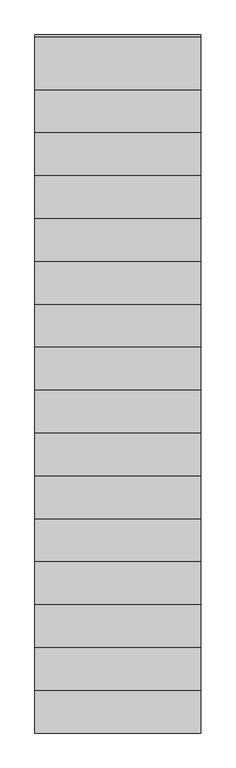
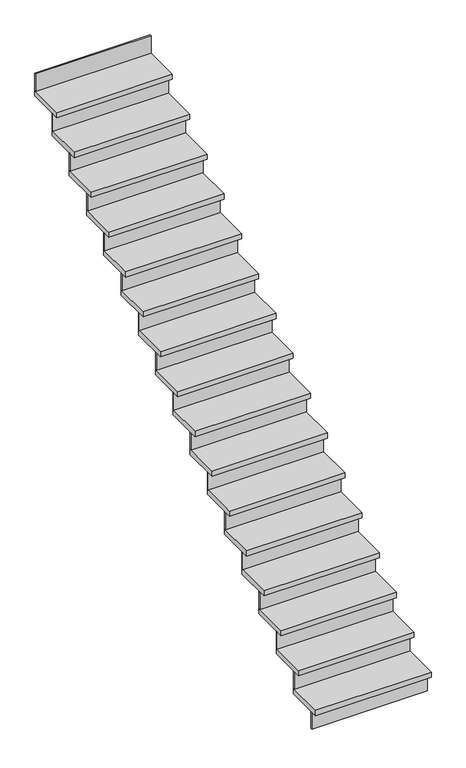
"""IFC4 building model written with IfcOpenShell, lengths in millimetres: stair flight geometry, 24_STR_trede_hout_vuren_40_neus_50_stootbord_10."""

from ifc_helpers import new_model, si_unit, frame, origin, origin_with_axes, place, context, project, spatial, polyline, outline, extrude, source, transform, mapped, element, save


def stair_flight_aef03ee1(model_context):
    return source(origin(), model_context, "Body", "SweptSolid", [
        extrude(outline(polyline([(17349.8089026, -25044.6322236), (18199.8089026, -25044.6322236), (18199.8089026, -25324.6322236), (17349.8089026, -25324.6322236), (17349.8089026, -25044.6322236)])), frame((0.0, 0.0, 136.4705882), z_axis=(0.0, 0.0, 1.0), x_axis=(1.0, 0.0, 0.0)), (0.0, 0.0, 1.0), 40.0),
        extrude(outline(polyline([(18199.8089026, -25264.6322236), (18199.8089026, -25274.6322236), (17349.8089026, -25274.6322236), (17349.8089026, -25264.6322236), (18199.8089026, -25264.6322236)])), origin_with_axes(), (0.0, 0.0, 1.0), 136.4705882),
        extrude(outline(polyline([(17349.8089026, -24824.6322236), (18199.8089026, -24824.6322236), (18199.8089026, -25104.6322236), (17349.8089026, -25104.6322236), (17349.8089026, -24824.6322236)])), frame((0.0, 0.0, 312.9411765), z_axis=(0.0, 0.0, 1.0), x_axis=(1.0, 0.0, 0.0)), (0.0, 0.0, 1.0), 40.0),
        extrude(outline(polyline([(18199.8089026, -25044.6322236), (18199.8089026, -25054.6322236), (17349.8089026, -25054.6322236), (17349.8089026, -25044.6322236), (18199.8089026, -25044.6322236)])), frame((0.0, 0.0, 176.4705882), z_axis=(0.0, 0.0, 1.0), x_axis=(1.0, 0.0, 0.0)), (0.0, 0.0, 1.0), 136.4705882),
        extrude(outline(polyline([(17349.8089026, -24604.6322236), (18199.8089026, -24604.6322236), (18199.8089026, -24884.6322236), (17349.8089026, -24884.6322236), (17349.8089026, -24604.6322236)])), frame((0.0, 0.0, 489.4117647), z_axis=(0.0, 0.0, 1.0), x_axis=(1.0, 0.0, 0.0)), (0.0, 0.0, 1.0), 40.0),
        extrude(outline(polyline([(18199.8089026, -24824.6322236), (18199.8089026, -24834.6322236), (17349.8089026, -24834.6322236), (17349.8089026, -24824.6322236), (18199.8089026, -24824.6322236)])), frame((0.0, 0.0, 352.9411765), z_axis=(0.0, 0.0, 1.0), x_axis=(1.0, 0.0, 0.0)), (0.0, 0.0, 1.0), 136.4705882),
        extrude(outline(polyline([(17349.8089026, -24384.6322236), (18199.8089026, -24384.6322236), (18199.8089026, -24664.6322236), (17349.8089026, -24664.6322236), (17349.8089026, -24384.6322236)])), frame((0.0, 0.0, 665.8823529), z_axis=(0.0, 0.0, 1.0), x_axis=(1.0, 0.0, 0.0)), (0.0, 0.0, 1.0), 40.0),
        extrude(outline(polyline([(18199.8089026, -24604.6322236), (18199.8089026, -24614.6322236), (17349.8089026, -24614.6322236), (17349.8089026, -24604.6322236), (18199.8089026, -24604.6322236)])), frame((0.0, 0.0, 529.4117647), z_axis=(0.0, 0.0, 1.0), x_axis=(1.0, 0.0, 0.0)), (0.0, 0.0, 1.0), 136.4705882),
        extrude(outline(polyline([(17349.8089026, -24164.6322236), (18199.8089026, -24164.6322236), (18199.8089026, -24444.6322236), (17349.8089026, -24444.6322236), (17349.8089026, -24164.6322236)])), frame((0.0, 0.0, 842.3529412), z_axis=(0.0, 0.0, 1.0), x_axis=(1.0, 0.0, 0.0)), (0.0, 0.0, 1.0), 40.0),
        extrude(outline(polyline([(18199.8089026, -24384.6322236), (18199.8089026, -24394.6322236), (17349.8089026, -24394.6322236), (17349.8089026, -24384.6322236), (18199.8089026, -24384.6322236)])), frame((0.0, 0.0, 705.8823529), z_axis=(0.0, 0.0, 1.0), x_axis=(1.0, 0.0, 0.0)), (0.0, 0.0, 1.0), 136.4705882),
        extrude(outline(polyline([(17349.8089026, -23944.6322236), (18199.8089026, -23944.6322236), (18199.8089026, -24224.6322236), (17349.8089026, -24224.6322236), (17349.8089026, -23944.6322236)])), frame((0.0, 0.0, 1018.8235294), z_axis=(0.0, 0.0, 1.0), x_axis=(1.0, 0.0, 0.0)), (0.0, 0.0, 1.0), 40.0),
        extrude(outline(polyline([(18199.8089026, -24164.6322236), (18199.8089026, -24174.6322236), (17349.8089026, -24174.6322236), (17349.8089026, -24164.6322236), (18199.8089026, -24164.6322236)])), frame((0.0, 0.0, 882.3529412), z_axis=(0.0, 0.0, 1.0), x_axis=(1.0, 0.0, 0.0)), (0.0, 0.0, 1.0), 136.4705882),
        extrude(outline(polyline([(17349.8089026, -23724.6322236), (18199.8089026, -23724.6322236), (18199.8089026, -24004.6322236), (17349.8089026, -24004.6322236), (17349.8089026, -23724.6322236)])), frame((0.0, 0.0, 1195.2941176), z_axis=(0.0, 0.0, 1.0), x_axis=(1.0, 0.0, 0.0)), (0.0, 0.0, 1.0), 40.0),
        extrude(outline(polyline([(18199.8089026, -23944.6322236), (18199.8089026, -23954.6322236), (17349.8089026, -23954.6322236), (17349.8089026, -23944.6322236), (18199.8089026, -23944.6322236)])), frame((0.0, 0.0, 1058.8235294), z_axis=(0.0, 0.0, 1.0), x_axis=(1.0, 0.0, 0.0)), (0.0, 0.0, 1.0), 136.4705882),
        extrude(outline(polyline([(17349.8089026, -23504.6322236), (18199.8089026, -23504.6322236), (18199.8089026, -23784.6322236), (17349.8089026, -23784.6322236), (17349.8089026, -23504.6322236)])), frame((0.0, 0.0, 1371.7647059), z_axis=(0.0, 0.0, 1.0), x_axis=(1.0, 0.0, 0.0)), (0.0, 0.0, 1.0), 40.0),
        extrude(outline(polyline([(18199.8089026, -23724.6322236), (18199.8089026, -23734.6322236), (17349.8089026, -23734.6322236), (17349.8089026, -23724.6322236), (18199.8089026, -23724.6322236)])), frame((0.0, 0.0, 1235.2941176), z_axis=(0.0, 0.0, 1.0), x_axis=(1.0, 0.0, 0.0)), (0.0, 0.0, 1.0), 136.4705882),
        extrude(outline(polyline([(17349.8089026, -23284.6322236), (18199.8089026, -23284.6322236), (18199.8089026, -23564.6322236), (17349.8089026, -23564.6322236), (17349.8089026, -23284.6322236)])), frame((0.0, 0.0, 1548.2352941), z_axis=(0.0, 0.0, 1.0), x_axis=(1.0, 0.0, 0.0)), (0.0, 0.0, 1.0), 40.0),
        extrude(outline(polyline([(18199.8089026, -23504.6322236), (18199.8089026, -23514.6322236), (17349.8089026, -23514.6322236), (17349.8089026, -23504.6322236), (18199.8089026, -23504.6322236)])), frame((0.0, 0.0, 1411.7647059), z_axis=(0.0, 0.0, 1.0), x_axis=(1.0, 0.0, 0.0)), (0.0, 0.0, 1.0), 136.4705882),
        extrude(outline(polyline([(17349.8089026, -23064.6322236), (18199.8089026, -23064.6322236), (18199.8089026, -23344.6322236), (17349.8089026, -23344.6322236), (17349.8089026, -23064.6322236)])), frame((0.0, 0.0, 1724.7058824), z_axis=(0.0, 0.0, 1.0), x_axis=(1.0, 0.0, 0.0)), (0.0, 0.0, 1.0), 40.0),
        extrude(outline(polyline([(18199.8089026, -23284.6322236), (18199.8089026, -23294.6322236), (17349.8089026, -23294.6322236), (17349.8089026, -23284.6322236), (18199.8089026, -23284.6322236)])), frame((0.0, 0.0, 1588.2352941), z_axis=(0.0, 0.0, 1.0), x_axis=(1.0, 0.0, 0.0)), (0.0, 0.0, 1.0), 136.4705882),
        extrude(outline(polyline([(17349.8089026, -22844.6322236), (18199.8089026, -22844.6322236), (18199.8089026, -23124.6322236), (17349.8089026, -23124.6322236), (17349.8089026, -22844.6322236)])), frame((0.0, 0.0, 1901.1764706), z_axis=(0.0, 0.0, 1.0), x_axis=(1.0, 0.0, 0.0)), (0.0, 0.0, 1.0), 40.0),
        extrude(outline(polyline([(18199.8089026, -23064.6322236), (18199.8089026, -23074.6322236), (17349.8089026, -23074.6322236), (17349.8089026, -23064.6322236), (18199.8089026, -23064.6322236)])), frame((0.0, 0.0, 1764.7058824), z_axis=(0.0, 0.0, 1.0), x_axis=(1.0, 0.0, 0.0)), (0.0, 0.0, 1.0), 136.4705882),
        extrude(outline(polyline([(17349.8089026, -22624.6322236), (18199.8089026, -22624.6322236), (18199.8089026, -22904.6322236), (17349.8089026, -22904.6322236), (17349.8089026, -22624.6322236)])), frame((0.0, 0.0, 2077.6470588), z_axis=(0.0, 0.0, 1.0), x_axis=(1.0, 0.0, 0.0)), (0.0, 0.0, 1.0), 40.0),
        extrude(outline(polyline([(18199.8089026, -22844.6322236), (18199.8089026, -22854.6322236), (17349.8089026, -22854.6322236), (17349.8089026, -22844.6322236), (18199.8089026, -22844.6322236)])), frame((0.0, 0.0, 1941.1764706), z_axis=(0.0, 0.0, 1.0), x_axis=(1.0, 0.0, 0.0)), (0.0, 0.0, 1.0), 136.4705882),
        extrude(outline(polyline([(17349.8089026, -22404.6322236), (18199.8089026, -22404.6322236), (18199.8089026, -22684.6322236), (17349.8089026, -22684.6322236), (17349.8089026, -22404.6322236)])), frame((0.0, 0.0, 2254.1176471), z_axis=(0.0, 0.0, 1.0), x_axis=(1.0, 0.0, 0.0)), (0.0, 0.0, 1.0), 40.0),
        extrude(outline(polyline([(18199.8089026, -22624.6322236), (18199.8089026, -22634.6322236), (17349.8089026, -22634.6322236), (17349.8089026, -22624.6322236), (18199.8089026, -22624.6322236)])), frame((0.0, 0.0, 2117.6470588), z_axis=(0.0, 0.0, 1.0), x_axis=(1.0, 0.0, 0.0)), (0.0, 0.0, 1.0), 136.4705882),
        extrude(outline(polyline([(17349.8089026, -22184.6322236), (18199.8089026, -22184.6322236), (18199.8089026, -22464.6322236), (17349.8089026, -22464.6322236), (17349.8089026, -22184.6322236)])), frame((0.0, 0.0, 2430.5882353), z_axis=(0.0, 0.0, 1.0), x_axis=(1.0, 0.0, 0.0)), (0.0, 0.0, 1.0), 40.0),
        extrude(outline(polyline([(18199.8089026, -22404.6322236), (18199.8089026, -22414.6322236), (17349.8089026, -22414.6322236), (17349.8089026, -22404.6322236), (18199.8089026, -22404.6322236)])), frame((0.0, 0.0, 2294.1176471), z_axis=(0.0, 0.0, 1.0), x_axis=(1.0, 0.0, 0.0)), (0.0, 0.0, 1.0), 136.4705882),
        extrude(outline(polyline([(17349.8089026, -21964.6322236), (18199.8089026, -21964.6322236), (18199.8089026, -22244.6322236), (17349.8089026, -22244.6322236), (17349.8089026, -21964.6322236)])), frame((0.0, 0.0, 2607.0588235), z_axis=(0.0, 0.0, 1.0), x_axis=(1.0, 0.0, 0.0)), (0.0, 0.0, 1.0), 40.0),
        extrude(outline(polyline([(18199.8089026, -22184.6322236), (18199.8089026, -22194.6322236), (17349.8089026, -22194.6322236), (17349.8089026, -22184.6322236), (18199.8089026, -22184.6322236)])), frame((0.0, 0.0, 2470.5882353), z_axis=(0.0, 0.0, 1.0), x_axis=(1.0, 0.0, 0.0)), (0.0, 0.0, 1.0), 136.4705882),
        extrude(outline(polyline([(17349.8089026, -21744.6322236), (18199.8089026, -21744.6322236), (18199.8089026, -22024.6322236), (17349.8089026, -22024.6322236), (17349.8089026, -21744.6322236)])), frame((0.0, 0.0, 2783.5294118), z_axis=(0.0, 0.0, 1.0), x_axis=(1.0, 0.0, 0.0)), (0.0, 0.0, 1.0), 40.0),
        extrude(outline(polyline([(18199.8089026, -21964.6322236), (18199.8089026, -21974.6322236), (17349.8089026, -21974.6322236), (17349.8089026, -21964.6322236), (18199.8089026, -21964.6322236)])), frame((0.0, 0.0, 2647.0588235), z_axis=(0.0, 0.0, 1.0), x_axis=(1.0, 0.0, 0.0)), (0.0, 0.0, 1.0), 136.4705882),
        extrude(outline(polyline([(18199.8089026, -21744.6322236), (18199.8089026, -21754.6322236), (17349.8089026, -21754.6322236), (17349.8089026, -21744.6322236), (18199.8089026, -21744.6322236)])), frame((0.0, 0.0, 2823.5294118), z_axis=(0.0, 0.0, 1.0), x_axis=(1.0, 0.0, 0.0)), (0.0, 0.0, 1.0), 136.4705882),
    ])


if __name__ == "__main__":
    model = new_model("IFC4")
    model_context = context("Model", 3, world=origin())
    ifc_project = project(units=[si_unit("LENGTHUNIT", "METRE", prefix="MILLI")], contexts=[model_context])
    site = spatial("IfcSite", under=ifc_project)
    building = spatial("IfcBuilding", under=site)
    placement = place(None, origin())
    stair_flight_shape = stair_flight_aef03ee1(model_context)
    element("IfcStairFlight", 1, ObjectType="24_STR_trede_hout_vuren_40_neus_50_stootbord_10", at=placement, inside=building, context=model_context, shape_type="MappedRepresentation", body=[
        mapped(stair_flight_shape, transform((0.0, 0.0, 0.0), x_axis=(1.0, 0.0, 0.0), y_axis=(0.0, 1.0, 0.0), z_axis=(0.0, 0.0, 1.0))),
    ])
    save(model, "model.ifc")
